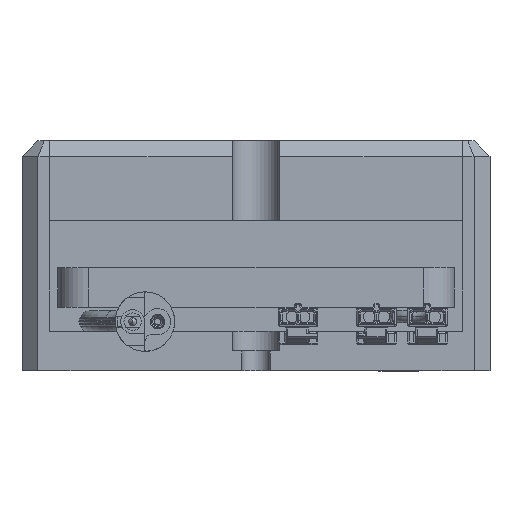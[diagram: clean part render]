
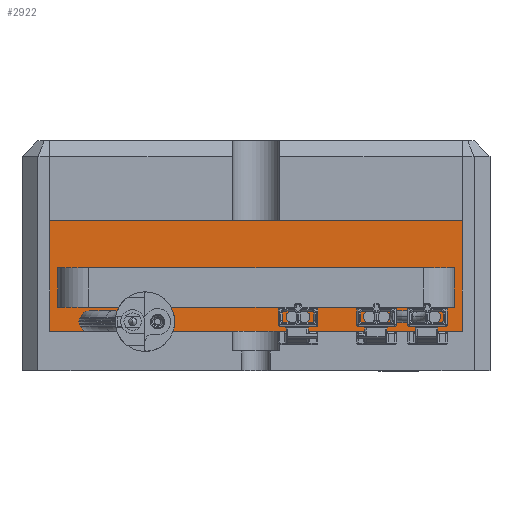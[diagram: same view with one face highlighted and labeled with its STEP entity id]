
A CAD part, left-side view. The second image highlights one B-rep face of the part: STEP entity #2922.
In plain terms, the highlighted planar face has unit normal (-1, 0, 0).
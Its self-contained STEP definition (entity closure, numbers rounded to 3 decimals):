
#834 = LINE ( 'NONE', #28265, #11915 ) ;
#1341 = DIRECTION ( 'NONE',  ( 0., 0., -1. ) ) ;
#1724 = AXIS2_PLACEMENT_3D ( 'NONE', #21736, #17639, #22493 ) ;
#2922 = ADVANCED_FACE ( 'NONE', ( #13787 ), #33772, .T. ) ;
#3378 = CARTESIAN_POINT ( 'NONE',  ( -55., -26., 29. ) ) ;
#5752 = ORIENTED_EDGE ( 'NONE', *, *, #12623, .T. ) ;
#6626 = VERTEX_POINT ( 'NONE', #23078 ) ;
#8030 = ORIENTED_EDGE ( 'NONE', *, *, #13027, .T. ) ;
#9063 = DIRECTION ( 'NONE',  ( 0., 0., -1. ) ) ;
#11001 = VECTOR ( 'NONE', #9063, 1000. ) ;
#11915 = VECTOR ( 'NONE', #1341, 1000. ) ;
#12623 = EDGE_CURVE ( 'NONE', #6626, #22542, #32869, .T. ) ;
#13027 = EDGE_CURVE ( 'NONE', #17862, #6626, #834, .T. ) ;
#13787 = FACE_OUTER_BOUND ( 'NONE', #19078, .T. ) ;
#17014 = CARTESIAN_POINT ( 'NONE',  ( -55., -26., 88.691 ) ) ;
#17276 = CARTESIAN_POINT ( 'NONE',  ( -55., 26., 29. ) ) ;
#17639 = DIRECTION ( 'NONE',  ( -1., 0., 0. ) ) ;
#17862 = VERTEX_POINT ( 'NONE', #17276 ) ;
#19078 = EDGE_LOOP ( 'NONE', ( #22840, #34716, #8030, #5752 ) ) ;
#19364 = VECTOR ( 'NONE', #48483, 1000. ) ;
#21605 = CARTESIAN_POINT ( 'NONE',  ( -55., 26., 5. ) ) ;
#21736 = CARTESIAN_POINT ( 'NONE',  ( -55., 20.5, 22.5 ) ) ;
#22493 = DIRECTION ( 'NONE',  ( 0., -1., 0. ) ) ;
#22542 = VERTEX_POINT ( 'NONE', #38105 ) ;
#22840 = ORIENTED_EDGE ( 'NONE', *, *, #44891, .F. ) ;
#23078 = CARTESIAN_POINT ( 'NONE',  ( -55., 26., 5. ) ) ;
#25470 = LINE ( 'NONE', #17014, #11001 ) ;
#26167 = EDGE_CURVE ( 'NONE', #17862, #49264, #34215, .T. ) ;
#28265 = CARTESIAN_POINT ( 'NONE',  ( -55., 26., 88.691 ) ) ;
#31383 = DIRECTION ( 'NONE',  ( 0., -1., 0. ) ) ;
#31827 = VECTOR ( 'NONE', #31383, 1000. ) ;
#32869 = LINE ( 'NONE', #21605, #19364 ) ;
#33772 = PLANE ( 'NONE',  #1724 ) ;
#34215 = LINE ( 'NONE', #38793, #31827 ) ;
#34716 = ORIENTED_EDGE ( 'NONE', *, *, #26167, .F. ) ;
#38105 = CARTESIAN_POINT ( 'NONE',  ( -55., -26., 5. ) ) ;
#38793 = CARTESIAN_POINT ( 'NONE',  ( -55., 20.5, 29. ) ) ;
#44891 = EDGE_CURVE ( 'NONE', #49264, #22542, #25470, .T. ) ;
#48483 = DIRECTION ( 'NONE',  ( 0., -1., 0. ) ) ;
#49264 = VERTEX_POINT ( 'NONE', #3378 ) ;
